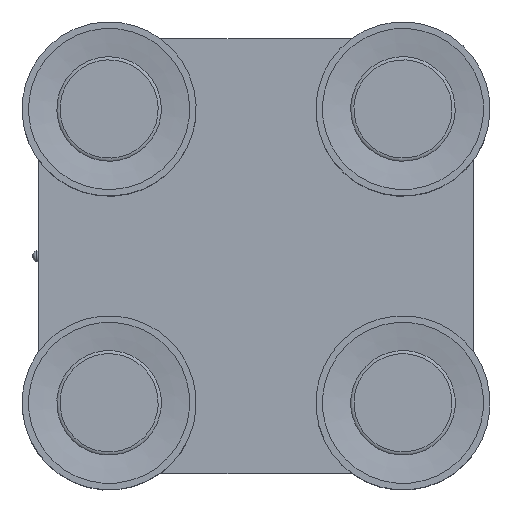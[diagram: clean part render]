
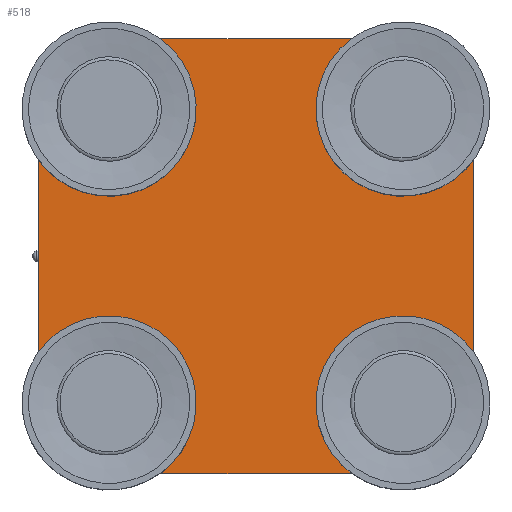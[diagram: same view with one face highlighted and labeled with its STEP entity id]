
A CAD part, top view. The second image highlights one B-rep face of the part: STEP entity #518.
In plain terms, the highlighted planar face has unit normal (0, 0, 1).
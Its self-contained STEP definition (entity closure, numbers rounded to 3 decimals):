
#44=LINE('',#919,#60);
#48=LINE('',#931,#64);
#52=LINE('',#943,#68);
#56=LINE('',#953,#72);
#60=VECTOR('',#725,10.);
#64=VECTOR('',#737,10.);
#68=VECTOR('',#749,10.);
#72=VECTOR('',#761,10.);
#82=PLANE('',#626);
#98=FACE_BOUND('',#191,.T.);
#99=FACE_BOUND('',#192,.T.);
#100=FACE_BOUND('',#193,.T.);
#101=FACE_BOUND('',#194,.T.);
#147=FACE_OUTER_BOUND('',#190,.T.);
#190=EDGE_LOOP('',(#411,#412,#413,#414,#415,#416,#417,#418));
#191=EDGE_LOOP('',(#419));
#192=EDGE_LOOP('',(#420));
#193=EDGE_LOOP('',(#421));
#194=EDGE_LOOP('',(#422));
#231=CIRCLE('',#596,5.);
#233=CIRCLE('',#600,5.);
#235=CIRCLE('',#604,5.);
#237=CIRCLE('',#608,5.);
#239=CIRCLE('',#612,20.);
#241=CIRCLE('',#616,20.);
#243=CIRCLE('',#620,20.);
#245=CIRCLE('',#624,20.);
#266=VERTEX_POINT('',#885);
#268=VERTEX_POINT('',#891);
#270=VERTEX_POINT('',#897);
#272=VERTEX_POINT('',#903);
#275=VERTEX_POINT('',#910);
#276=VERTEX_POINT('',#912);
#278=VERTEX_POINT('',#918);
#280=VERTEX_POINT('',#924);
#282=VERTEX_POINT('',#930);
#284=VERTEX_POINT('',#936);
#286=VERTEX_POINT('',#942);
#288=VERTEX_POINT('',#948);
#310=EDGE_CURVE('',#266,#266,#231,.T.);
#312=EDGE_CURVE('',#268,#268,#233,.T.);
#314=EDGE_CURVE('',#270,#270,#235,.T.);
#316=EDGE_CURVE('',#272,#272,#237,.T.);
#319=EDGE_CURVE('',#276,#275,#239,.T.);
#322=EDGE_CURVE('',#278,#276,#44,.T.);
#325=EDGE_CURVE('',#280,#278,#241,.T.);
#328=EDGE_CURVE('',#282,#280,#48,.T.);
#331=EDGE_CURVE('',#284,#282,#243,.T.);
#334=EDGE_CURVE('',#286,#284,#52,.T.);
#337=EDGE_CURVE('',#288,#286,#245,.T.);
#340=EDGE_CURVE('',#275,#288,#56,.T.);
#411=ORIENTED_EDGE('',*,*,#340,.T.);
#412=ORIENTED_EDGE('',*,*,#337,.T.);
#413=ORIENTED_EDGE('',*,*,#334,.T.);
#414=ORIENTED_EDGE('',*,*,#331,.T.);
#415=ORIENTED_EDGE('',*,*,#328,.T.);
#416=ORIENTED_EDGE('',*,*,#325,.T.);
#417=ORIENTED_EDGE('',*,*,#322,.T.);
#418=ORIENTED_EDGE('',*,*,#319,.T.);
#419=ORIENTED_EDGE('',*,*,#310,.T.);
#420=ORIENTED_EDGE('',*,*,#312,.T.);
#421=ORIENTED_EDGE('',*,*,#314,.T.);
#422=ORIENTED_EDGE('',*,*,#316,.T.);
#518=ADVANCED_FACE('',(#147,#98,#99,#100,#101),#82,.T.);
#596=AXIS2_PLACEMENT_3D('',#886,#686,#687);
#600=AXIS2_PLACEMENT_3D('',#892,#694,#695);
#604=AXIS2_PLACEMENT_3D('',#898,#702,#703);
#608=AXIS2_PLACEMENT_3D('',#904,#710,#711);
#612=AXIS2_PLACEMENT_3D('',#913,#719,#720);
#616=AXIS2_PLACEMENT_3D('',#925,#731,#732);
#620=AXIS2_PLACEMENT_3D('',#937,#743,#744);
#624=AXIS2_PLACEMENT_3D('',#949,#755,#756);
#626=AXIS2_PLACEMENT_3D('',#954,#762,#763);
#686=DIRECTION('center_axis',(0.,0.,-1.));
#687=DIRECTION('ref_axis',(-1.,0.,0.));
#694=DIRECTION('center_axis',(0.,0.,-1.));
#695=DIRECTION('ref_axis',(-1.,0.,0.));
#702=DIRECTION('center_axis',(0.,0.,-1.));
#703=DIRECTION('ref_axis',(-1.,0.,0.));
#710=DIRECTION('center_axis',(0.,0.,-1.));
#711=DIRECTION('ref_axis',(-1.,0.,0.));
#719=DIRECTION('center_axis',(0.,0.,1.));
#720=DIRECTION('ref_axis',(0.,1.,0.));
#725=DIRECTION('',(-1.,0.,0.));
#731=DIRECTION('center_axis',(0.,0.,1.));
#732=DIRECTION('ref_axis',(1.,0.,0.));
#737=DIRECTION('',(0.,1.,0.));
#743=DIRECTION('center_axis',(0.,0.,1.));
#744=DIRECTION('ref_axis',(0.,-1.,0.));
#749=DIRECTION('',(1.,0.,0.));
#755=DIRECTION('center_axis',(0.,0.,1.));
#756=DIRECTION('ref_axis',(-1.,0.,0.));
#761=DIRECTION('',(0.,-1.,0.));
#762=DIRECTION('center_axis',(0.,0.,1.));
#763=DIRECTION('ref_axis',(1.,0.,0.));
#885=CARTESIAN_POINT('',(-62.5,-67.5,15.));
#886=CARTESIAN_POINT('Origin',(-67.5,-67.5,15.));
#891=CARTESIAN_POINT('',(-62.5,67.5,15.));
#892=CARTESIAN_POINT('Origin',(-67.5,67.5,15.));
#897=CARTESIAN_POINT('',(72.5,67.5,15.));
#898=CARTESIAN_POINT('Origin',(67.5,67.5,15.));
#903=CARTESIAN_POINT('',(72.5,-67.5,15.));
#904=CARTESIAN_POINT('Origin',(67.5,-67.5,15.));
#910=CARTESIAN_POINT('',(-100.,80.,15.));
#912=CARTESIAN_POINT('',(-80.,100.,15.));
#913=CARTESIAN_POINT('Origin',(-80.,80.,15.));
#918=CARTESIAN_POINT('',(80.,100.,15.));
#919=CARTESIAN_POINT('',(80.,100.,15.));
#924=CARTESIAN_POINT('',(100.,80.,15.));
#925=CARTESIAN_POINT('Origin',(80.,80.,15.));
#930=CARTESIAN_POINT('',(100.,-80.,15.));
#931=CARTESIAN_POINT('',(100.,-80.,15.));
#936=CARTESIAN_POINT('',(80.,-100.,15.));
#937=CARTESIAN_POINT('Origin',(80.,-80.,15.));
#942=CARTESIAN_POINT('',(-80.,-100.,15.));
#943=CARTESIAN_POINT('',(-80.,-100.,15.));
#948=CARTESIAN_POINT('',(-100.,-80.,15.));
#949=CARTESIAN_POINT('Origin',(-80.,-80.,15.));
#953=CARTESIAN_POINT('',(-100.,80.,15.));
#954=CARTESIAN_POINT('Origin',(0.,0.,
15.));
